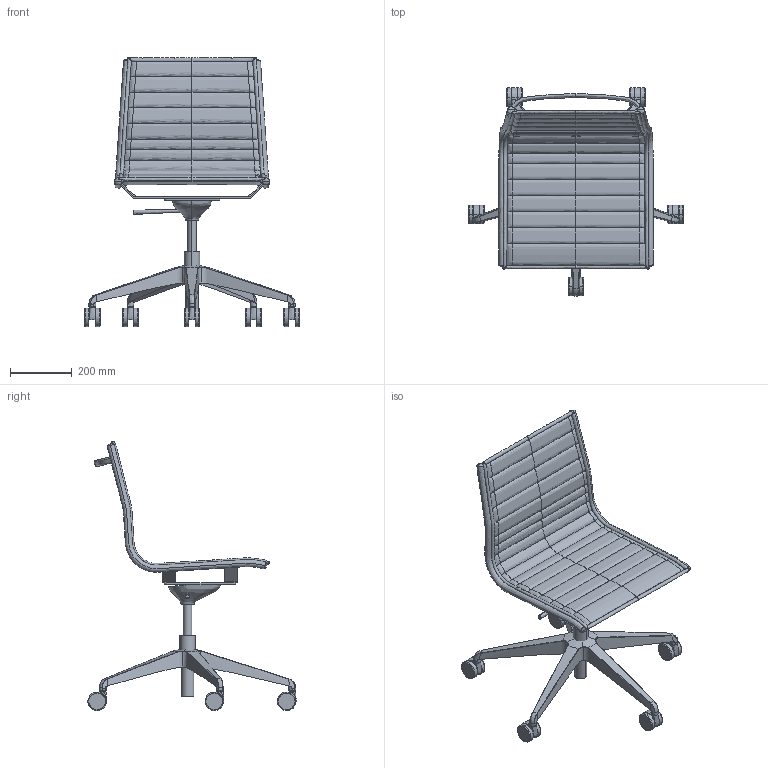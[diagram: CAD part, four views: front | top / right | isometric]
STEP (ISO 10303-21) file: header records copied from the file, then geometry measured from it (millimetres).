
FILE_DESCRIPTION(/* description */ (''),/* implementation_level */ '2;1');
FILE_NAME(/* name */ 'FLY721~1',/* time_stamp */ '2017-10-19T14:45:23+02:00',/* author */ (''),/* organization */ (''),/* preprocessor_version */ 'ST-DEVELOPER v15',/* originating_system */ '',/* authorisation */ '');
FILE_SCHEMA (('CONFIG_CONTROL_DESIGN'));
Length unit declared in the file: millimetre
Products named in the file (1): Document
Bounding box: 694.82 x 673.73 x 871.25 mm (x, y, z)
Volume: 1493152.7 mm3; surface area: 1513748.8 mm2
Topology: 9 solids, 42 shells, 411 faces, 980 edges, 575 vertices
Faces by surface type: bspline 348, plane 63
Entity records: 31961 total; most frequent: CARTESIAN_POINT 26492, ORIENTED_EDGE 1728, EDGE_CURVE 944, VERTEX_POINT 569, B_SPLINE_CURVE_WITH_KNOTS 468, ADVANCED_FACE 411, FACE_OUTER_BOUND 411, EDGE_LOOP 411
